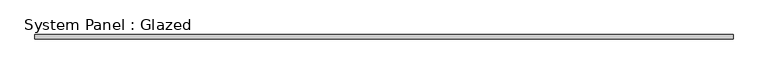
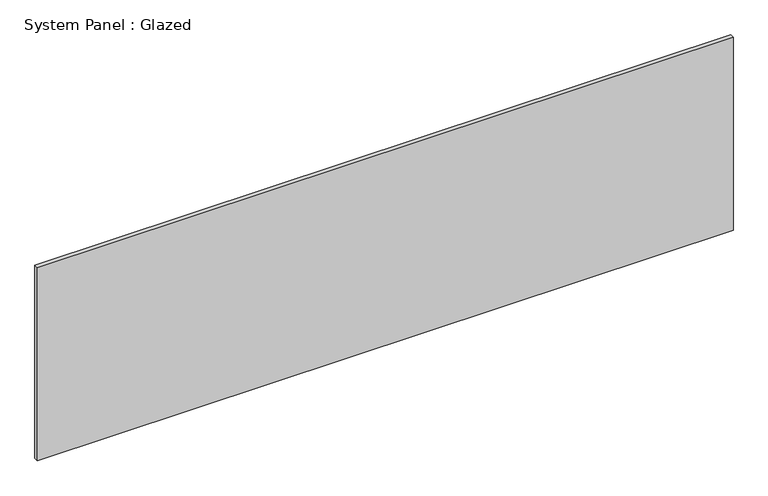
"""IFC4 building model written with IfcOpenShell, lengths in millimetres: plate geometry, System Panel : Glazed."""

from ifc_helpers import new_model, si_unit, origin, origin_with_axes, place, context, project, spatial, polyline, outline, extrude, source, transform, mapped, element, save


def system_panel_glazed_f47374c1(model_context):
    return source(origin(), model_context, "Body", "SweptSolid", [
        extrude(outline(polyline([(1962.5, -49.5), (-1962.5, -49.5), (-1962.5, -24.5), (1962.5, -24.5), (1962.5, -49.5)])), origin_with_axes(), (0.0, 0.0, 1.0), 1150.0),
    ])


if __name__ == "__main__":
    model = new_model("IFC4")
    model_context = context("Model", 3, world=origin())
    ifc_project = project(units=[si_unit("LENGTHUNIT", "METRE", prefix="MILLI")], contexts=[model_context])
    site = spatial("IfcSite", under=ifc_project)
    building = spatial("IfcBuilding", under=site)
    placement = place(None, origin())
    system_panel_glazed_shape = system_panel_glazed_f47374c1(model_context)
    element("IfcPlate", 1, ObjectType="System Panel : Glazed", at=placement, inside=building, context=model_context, shape_type="MappedRepresentation", body=[
        mapped(system_panel_glazed_shape, transform((0.0, 0.0, 0.0), x_axis=(1.0, 0.0, 0.0), y_axis=(0.0, 1.0, 0.0), z_axis=(0.0, 0.0, 1.0))),
    ])
    save(model, "model.ifc")
